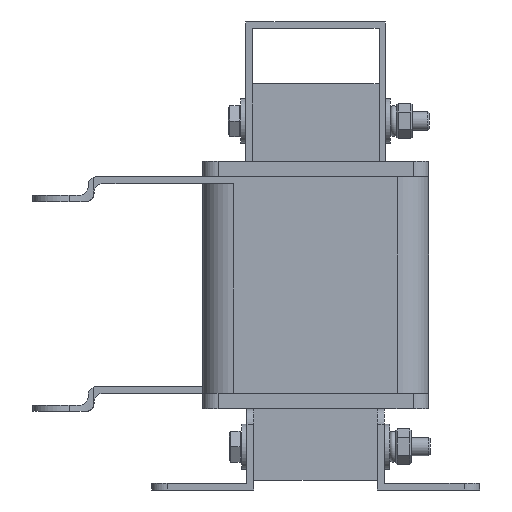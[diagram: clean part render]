
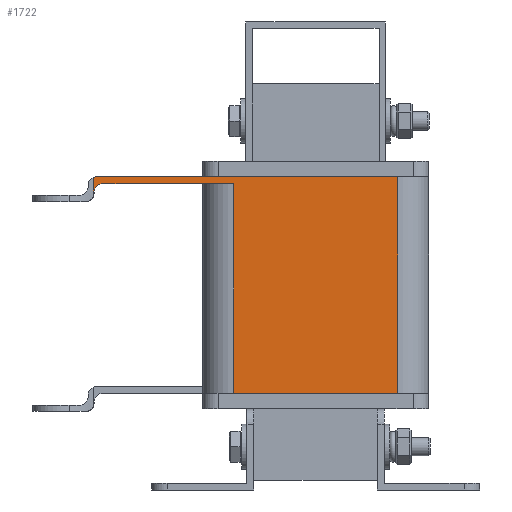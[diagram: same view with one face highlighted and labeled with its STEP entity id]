
A CAD part, left-side view. The second image highlights one B-rep face of the part: STEP entity #1722.
In plain terms, the highlighted planar face has unit normal (-1, 0, 0).
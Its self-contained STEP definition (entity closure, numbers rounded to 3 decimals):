
#1722=ADVANCED_FACE('',(#2236),#2238,.T.);
#2236=FACE_BOUND('',#2237,.T.);
#2237=EDGE_LOOP('',(#3380,#3381,#3382,#3383,#3384,#3385,#3386,#3387,#3388,#3389));
#2238=PLANE('',#2239);
#2239=AXIS2_PLACEMENT_3D('',#2240,#2241,#2242);
#2240=CARTESIAN_POINT('',(-28.,26.5,0.));
#2241=DIRECTION('',(-1.,0.,0.));
#2242=DIRECTION('',(0.,-1.,0.));
#3380=ORIENTED_EDGE('',*,*,#4008,.F.);
#3381=ORIENTED_EDGE('',*,*,#4009,.F.);
#3382=ORIENTED_EDGE('',*,*,#4010,.F.);
#3383=ORIENTED_EDGE('',*,*,#4011,.T.);
#3384=ORIENTED_EDGE('',*,*,#4012,.T.);
#3385=ORIENTED_EDGE('',*,*,#4013,.F.);
#3386=ORIENTED_EDGE('',*,*,#4014,.F.);
#3387=ORIENTED_EDGE('',*,*,#4015,.F.);
#3388=ORIENTED_EDGE('',*,*,#4016,.F.);
#3389=ORIENTED_EDGE('',*,*,#4017,.T.);
#4008=EDGE_CURVE('',#4491,#4492,#4493,.F.);
#4009=EDGE_CURVE('',#4494,#4491,#4495,.T.);
#4010=EDGE_CURVE('',#4496,#4494,#4497,.T.);
#4011=EDGE_CURVE('',#4496,#4498,#4499,.T.);
#4012=EDGE_CURVE('',#4498,#4500,#4501,.T.);
#4013=EDGE_CURVE('',#4502,#4500,#4503,.T.);
#4014=EDGE_CURVE('',#4504,#4502,#4505,.F.);
#4015=EDGE_CURVE('',#4506,#4504,#4507,.T.);
#4016=EDGE_CURVE('',#4508,#4506,#4509,.F.);
#4017=EDGE_CURVE('',#4508,#4492,#4510,.T.);
#4491=VERTEX_POINT('',#5455);
#4492=VERTEX_POINT('',#5456);
#4493=CIRCLE('',#5457,2.8);
#4494=VERTEX_POINT('',#5461);
#4495=LINE('',#5462,#5463);
#4496=VERTEX_POINT('',#5465);
#4497=LINE('',#5466,#5467);
#4498=VERTEX_POINT('',#5469);
#4499=LINE('',#5470,#5471);
#4500=VERTEX_POINT('',#5473);
#4501=LINE('',#5474,#5475);
#4502=VERTEX_POINT('',#5477);
#4503=LINE('',#5478,#5479);
#4504=VERTEX_POINT('',#5481);
#4505=CIRCLE('',#5482,2.8);
#4506=VERTEX_POINT('',#5486);
#4507=LINE('',#5487,#5488);
#4508=VERTEX_POINT('',#5490);
#4509=CIRCLE('',#5491,2.8);
#4510=LINE('',#5495,#5496);
#5455=CARTESIAN_POINT('',(-28.,68.7,67.8));
#5456=CARTESIAN_POINT('',(-28.,71.5,65.));
#5457=AXIS2_PLACEMENT_3D('',#5458,#5459,#5460);
#5458=CARTESIAN_POINT('',(-28.,68.7,65.));
#5459=DIRECTION('',(1.,0.,0.));
#5460=DIRECTION('',(0.,1.,0.));
#5461=CARTESIAN_POINT('',(-28.,26.5,67.8));
#5462=CARTESIAN_POINT('',(-28.,26.5,67.8));
#5463=VECTOR('',#5464,1.);
#5464=DIRECTION('',(0.,1.,0.));
#5465=CARTESIAN_POINT('',(-28.,26.5,0.));
#5466=CARTESIAN_POINT('',(-28.,26.5,0.));
#5467=VECTOR('',#5468,1.);
#5468=DIRECTION('',(0.,0.,1.));
#5469=CARTESIAN_POINT('',(-28.,-26.5,0.));
#5470=CARTESIAN_POINT('',(-28.,26.5,0.));
#5471=VECTOR('',#5472,1.);
#5472=DIRECTION('',(0.,-1.,0.));
#5473=CARTESIAN_POINT('',(-28.,-26.5,70.));
#5474=CARTESIAN_POINT('',(-28.,-26.5,0.));
#5475=VECTOR('',#5476,1.);
#5476=DIRECTION('',(0.,0.,1.));
#5477=CARTESIAN_POINT('',(-28.,70.7,70.));
#5478=CARTESIAN_POINT('',(-28.,70.7,70.));
#5479=VECTOR('',#5480,1.);
#5480=DIRECTION('',(0.,-1.,0.));
#5481=CARTESIAN_POINT('',(-28.,71.881,69.739));
#5482=AXIS2_PLACEMENT_3D('',#5483,#5484,#5485);
#5483=CARTESIAN_POINT('',(-28.,70.7,67.2));
#5484=DIRECTION('',(-1.,0.,0.));
#5485=DIRECTION('',(0.,0.,1.));
#5486=CARTESIAN_POINT('',(-28.,71.881,63.39));
#5487=CARTESIAN_POINT('',(-28.,71.881,63.39));
#5488=VECTOR('',#5489,1.);
#5489=DIRECTION('',(0.,0.,1.));
#5490=CARTESIAN_POINT('',(-28.,71.5,64.8));
#5491=AXIS2_PLACEMENT_3D('',#5492,#5493,#5494);
#5492=CARTESIAN_POINT('',(-28.,74.3,64.8));
#5493=DIRECTION('',(-1.,0.,0.));
#5494=DIRECTION('',(0.,-0.864,-0.504));
#5495=CARTESIAN_POINT('',(-28.,71.5,64.8));
#5496=VECTOR('',#5497,1.);
#5497=DIRECTION('',(0.,0.,1.));
